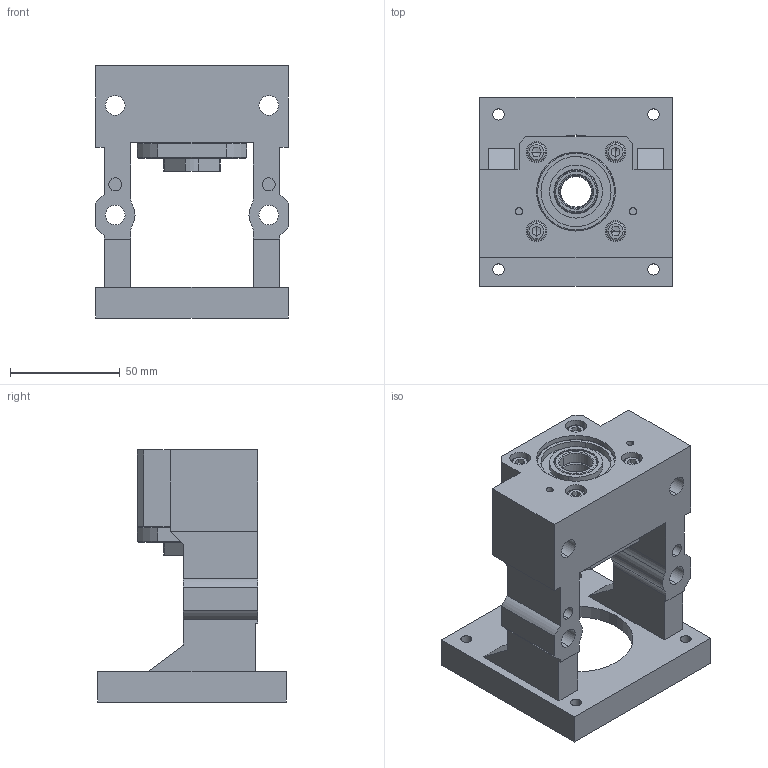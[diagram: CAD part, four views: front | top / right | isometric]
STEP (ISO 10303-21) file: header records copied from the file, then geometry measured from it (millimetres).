
FILE_DESCRIPTION (( 'STEP AP203' ), '1' );
FILE_NAME ('MBCA15-X.STEP', '2019-07-29T01:59:15', ( '' ), ( '' ), 'SwSTEP 2.0', 'SolidWorks 2018', '' );
FILE_SCHEMA (( 'CONFIG_CONTROL_DESIGN' ));
Length unit declared in the file: millimetre
Products named in the file (2): MBCA15-X
Bounding box: 88 x 86 x 115 mm (x, y, z)
Surface area: 63107.9 mm2 (no closed solid volume)
Topology: 0 solids, 17 shells, 243 faces, 648 edges, 424 vertices
Faces by surface type: cylinder 100, plane 99, torus 22, cone 22
Entity records: 8098 total; most frequent: CARTESIAN_POINT 1777, DIRECTION 1354, ORIENTED_EDGE 1173, EDGE_CURVE 640, AXIS2_PLACEMENT_3D 525, VERTEX_POINT 424, VECTOR 304, LINE 304
